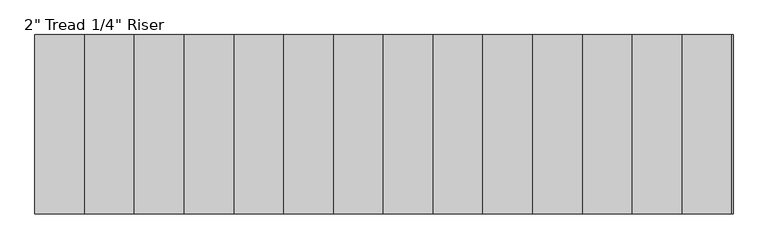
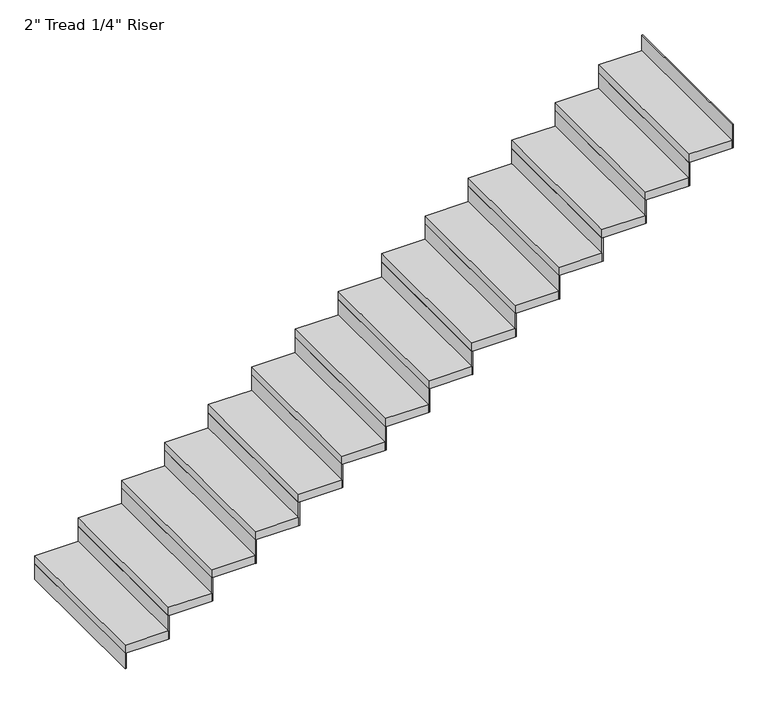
"""IFC4 building model written with IfcOpenShell, lengths in millimetres: stair flight geometry."""

from ifc_helpers import new_model, si_unit, frame, origin, origin_with_axes, place, context, project, spatial, polyline, outline, extrude, source, transform, mapped, element, save


def stair_flight_90295c1e(model_context):
    return source(origin(), model_context, "Body", "SweptSolid", [
        extrude(outline(polyline([(133406.5974271, -2391.9711813), (133400.2474271, -2391.9711813), (133400.2474271, -1477.5711813), (133406.5974271, -1477.5711813), (133406.5974271, -2391.9711813)])), origin_with_axes(), (0.0, 0.0, 1.0), 94.3428571),
        extrude(outline(polyline([(133654.2474271, -1477.5711813), (133654.2474271, -2391.9711813), (133400.2474271, -2391.9711813), (133400.2474271, -1477.5711813), (133654.2474271, -1477.5711813)])), frame((0.0, 0.0, 94.3428571), z_axis=(0.0, 0.0, 1.0), x_axis=(1.0, 0.0, 0.0)), (0.0, 0.0, 1.0), 50.8),
        extrude(outline(polyline([(133660.5974271, -2391.9711813), (133654.2474271, -2391.9711813), (133654.2474271, -1477.5711813), (133660.5974271, -1477.5711813), (133660.5974271, -2391.9711813)])), frame((0.0, 0.0, 94.3428571), z_axis=(0.0, 0.0, 1.0), x_axis=(1.0, 0.0, 0.0)), (0.0, 0.0, 1.0), 145.1428571),
        extrude(outline(polyline([(133908.2474271, -1477.5711813), (133908.2474271, -2391.9711813), (133654.2474271, -2391.9711813), (133654.2474271, -1477.5711813), (133908.2474271, -1477.5711813)])), frame((0.0, 0.0, 239.4857143), z_axis=(0.0, 0.0, 1.0), x_axis=(1.0, 0.0, 0.0)), (0.0, 0.0, 1.0), 50.8),
        extrude(outline(polyline([(133914.5974271, -2391.9711813), (133908.2474271, -2391.9711813), (133908.2474271, -1477.5711813), (133914.5974271, -1477.5711813), (133914.5974271, -2391.9711813)])), frame((0.0, 0.0, 239.4857143), z_axis=(0.0, 0.0, 1.0), x_axis=(1.0, 0.0, 0.0)), (0.0, 0.0, 1.0), 145.1428571),
        extrude(outline(polyline([(134162.2474271, -1477.5711813), (134162.2474271, -2391.9711813), (133908.2474271, -2391.9711813), (133908.2474271, -1477.5711813), (134162.2474271, -1477.5711813)])), frame((0.0, 0.0, 384.6285714), z_axis=(0.0, 0.0, 1.0), x_axis=(1.0, 0.0, 0.0)), (0.0, 0.0, 1.0), 50.8),
        extrude(outline(polyline([(134168.5974271, -2391.9711813), (134162.2474271, -2391.9711813), (134162.2474271, -1477.5711813), (134168.5974271, -1477.5711813), (134168.5974271, -2391.9711813)])), frame((0.0, 0.0, 384.6285714), z_axis=(0.0, 0.0, 1.0), x_axis=(1.0, 0.0, 0.0)), (0.0, 0.0, 1.0), 145.1428571),
        extrude(outline(polyline([(134416.2474271, -1477.5711813), (134416.2474271, -2391.9711813), (134162.2474271, -2391.9711813), (134162.2474271, -1477.5711813), (134416.2474271, -1477.5711813)])), frame((0.0, 0.0, 529.7714286), z_axis=(0.0, 0.0, 1.0), x_axis=(1.0, 0.0, 0.0)), (0.0, 0.0, 1.0), 50.8),
        extrude(outline(polyline([(134422.5974271, -2391.9711813), (134416.2474271, -2391.9711813), (134416.2474271, -1477.5711813), (134422.5974271, -1477.5711813), (134422.5974271, -2391.9711813)])), frame((0.0, 0.0, 529.7714286), z_axis=(0.0, 0.0, 1.0), x_axis=(1.0, 0.0, 0.0)), (0.0, 0.0, 1.0), 145.1428571),
        extrude(outline(polyline([(134670.2474271, -1477.5711813), (134670.2474271, -2391.9711813), (134416.2474271, -2391.9711813), (134416.2474271, -1477.5711813), (134670.2474271, -1477.5711813)])), frame((0.0, 0.0, 674.9142857), z_axis=(0.0, 0.0, 1.0), x_axis=(1.0, 0.0, 0.0)), (0.0, 0.0, 1.0), 50.8),
        extrude(outline(polyline([(134676.5974271, -2391.9711813), (134670.2474271, -2391.9711813), (134670.2474271, -1477.5711813), (134676.5974271, -1477.5711813), (134676.5974271, -2391.9711813)])), frame((0.0, 0.0, 674.9142857), z_axis=(0.0, 0.0, 1.0), x_axis=(1.0, 0.0, 0.0)), (0.0, 0.0, 1.0), 145.1428571),
        extrude(outline(polyline([(134924.2474271, -1477.5711813), (134924.2474271, -2391.9711813), (134670.2474271, -2391.9711813), (134670.2474271, -1477.5711813), (134924.2474271, -1477.5711813)])), frame((0.0, 0.0, 820.0571429), z_axis=(0.0, 0.0, 1.0), x_axis=(1.0, 0.0, 0.0)), (0.0, 0.0, 1.0), 50.8),
        extrude(outline(polyline([(134930.5974271, -2391.9711813), (134924.2474271, -2391.9711813), (134924.2474271, -1477.5711813), (134930.5974271, -1477.5711813), (134930.5974271, -2391.9711813)])), frame((0.0, 0.0, 820.0571429), z_axis=(0.0, 0.0, 1.0), x_axis=(1.0, 0.0, 0.0)), (0.0, 0.0, 1.0), 145.1428571),
        extrude(outline(polyline([(135178.2474271, -1477.5711813), (135178.2474271, -2391.9711813), (134924.2474271, -2391.9711813), (134924.2474271, -1477.5711813), (135178.2474271, -1477.5711813)])), frame((0.0, 0.0, 965.2), z_axis=(0.0, 0.0, 1.0), x_axis=(1.0, 0.0, 0.0)), (0.0, 0.0, 1.0), 50.8),
        extrude(outline(polyline([(135184.5974271, -2391.9711813), (135178.2474271, -2391.9711813), (135178.2474271, -1477.5711813), (135184.5974271, -1477.5711813), (135184.5974271, -2391.9711813)])), frame((0.0, 0.0, 965.2), z_axis=(0.0, 0.0, 1.0), x_axis=(1.0, 0.0, 0.0)), (0.0, 0.0, 1.0), 145.1428571),
        extrude(outline(polyline([(135432.2474271, -1477.5711813), (135432.2474271, -2391.9711813), (135178.2474271, -2391.9711813), (135178.2474271, -1477.5711813), (135432.2474271, -1477.5711813)])), frame((0.0, 0.0, 1110.3428571), z_axis=(0.0, 0.0, 1.0), x_axis=(1.0, 0.0, 0.0)), (0.0, 0.0, 1.0), 50.8),
        extrude(outline(polyline([(135438.5974271, -2391.9711813), (135432.2474271, -2391.9711813), (135432.2474271, -1477.5711813), (135438.5974271, -1477.5711813), (135438.5974271, -2391.9711813)])), frame((0.0, 0.0, 1110.3428571), z_axis=(0.0, 0.0, 1.0), x_axis=(1.0, 0.0, 0.0)), (0.0, 0.0, 1.0), 145.1428571),
        extrude(outline(polyline([(135686.2474271, -1477.5711813), (135686.2474271, -2391.9711813), (135432.2474271, -2391.9711813), (135432.2474271, -1477.5711813), (135686.2474271, -1477.5711813)])), frame((0.0, 0.0, 1255.4857143), z_axis=(0.0, 0.0, 1.0), x_axis=(1.0, 0.0, 0.0)), (0.0, 0.0, 1.0), 50.8),
        extrude(outline(polyline([(135692.5974271, -2391.9711813), (135686.2474271, -2391.9711813), (135686.2474271, -1477.5711813), (135692.5974271, -1477.5711813), (135692.5974271, -2391.9711813)])), frame((0.0, 0.0, 1255.4857143), z_axis=(0.0, 0.0, 1.0), x_axis=(1.0, 0.0, 0.0)), (0.0, 0.0, 1.0), 145.1428571),
        extrude(outline(polyline([(135940.2474271, -1477.5711813), (135940.2474271, -2391.9711813), (135686.2474271, -2391.9711813), (135686.2474271, -1477.5711813), (135940.2474271, -1477.5711813)])), frame((0.0, 0.0, 1400.6285714), z_axis=(0.0, 0.0, 1.0), x_axis=(1.0, 0.0, 0.0)), (0.0, 0.0, 1.0), 50.8),
        extrude(outline(polyline([(135946.5974271, -2391.9711813), (135940.2474271, -2391.9711813), (135940.2474271, -1477.5711813), (135946.5974271, -1477.5711813), (135946.5974271, -2391.9711813)])), frame((0.0, 0.0, 1400.6285714), z_axis=(0.0, 0.0, 1.0), x_axis=(1.0, 0.0, 0.0)), (0.0, 0.0, 1.0), 145.1428571),
        extrude(outline(polyline([(136194.2474271, -1477.5711813), (136194.2474271, -2391.9711813), (135940.2474271, -2391.9711813), (135940.2474271, -1477.5711813), (136194.2474271, -1477.5711813)])), frame((0.0, 0.0, 1545.7714286), z_axis=(0.0, 0.0, 1.0), x_axis=(1.0, 0.0, 0.0)), (0.0, 0.0, 1.0), 50.8),
        extrude(outline(polyline([(136200.5974271, -2391.9711813), (136194.2474271, -2391.9711813), (136194.2474271, -1477.5711813), (136200.5974271, -1477.5711813), (136200.5974271, -2391.9711813)])), frame((0.0, 0.0, 1545.7714286), z_axis=(0.0, 0.0, 1.0), x_axis=(1.0, 0.0, 0.0)), (0.0, 0.0, 1.0), 145.1428571),
        extrude(outline(polyline([(136448.2474271, -1477.5711813), (136448.2474271, -2391.9711813), (136194.2474271, -2391.9711813), (136194.2474271, -1477.5711813), (136448.2474271, -1477.5711813)])), frame((0.0, 0.0, 1690.9142857), z_axis=(0.0, 0.0, 1.0), x_axis=(1.0, 0.0, 0.0)), (0.0, 0.0, 1.0), 50.8),
        extrude(outline(polyline([(136454.5974271, -2391.9711813), (136448.2474271, -2391.9711813), (136448.2474271, -1477.5711813), (136454.5974271, -1477.5711813), (136454.5974271, -2391.9711813)])), frame((0.0, 0.0, 1690.9142857), z_axis=(0.0, 0.0, 1.0), x_axis=(1.0, 0.0, 0.0)), (0.0, 0.0, 1.0), 145.1428571),
        extrude(outline(polyline([(136702.2474271, -1477.5711813), (136702.2474271, -2391.9711813), (136448.2474271, -2391.9711813), (136448.2474271, -1477.5711813), (136702.2474271, -1477.5711813)])), frame((0.0, 0.0, 1836.0571429), z_axis=(0.0, 0.0, 1.0), x_axis=(1.0, 0.0, 0.0)), (0.0, 0.0, 1.0), 50.8),
        extrude(outline(polyline([(136708.5974271, -2391.9711813), (136702.2474271, -2391.9711813), (136702.2474271, -1477.5711813), (136708.5974271, -1477.5711813), (136708.5974271, -2391.9711813)])), frame((0.0, 0.0, 1836.0571429), z_axis=(0.0, 0.0, 1.0), x_axis=(1.0, 0.0, 0.0)), (0.0, 0.0, 1.0), 145.1428571),
        extrude(outline(polyline([(136962.5974271, -2391.9711813), (136956.2474271, -2391.9711813), (136956.2474271, -1477.5711813), (136962.5974271, -1477.5711813), (136962.5974271, -2391.9711813)])), frame((0.0, 0.0, 1981.2), z_axis=(0.0, 0.0, 1.0), x_axis=(1.0, 0.0, 0.0)), (0.0, 0.0, 1.0), 145.1428571),
        extrude(outline(polyline([(136956.2474271, -1477.5711813), (136956.2474271, -2391.9711813), (136702.2474271, -2391.9711813), (136702.2474271, -1477.5711813), (136956.2474271, -1477.5711813)])), frame((0.0, 0.0, 1981.2), z_axis=(0.0, 0.0, 1.0), x_axis=(1.0, 0.0, 0.0)), (0.0, 0.0, 1.0), 50.8),
    ])


if __name__ == "__main__":
    model = new_model("IFC4")
    model_context = context("Model", 3, world=origin())
    ifc_project = project(units=[si_unit("LENGTHUNIT", "METRE", prefix="MILLI")], contexts=[model_context])
    site = spatial("IfcSite", under=ifc_project)
    building = spatial("IfcBuilding", under=site)
    placement = place(None, origin())
    stair_flight_shape = stair_flight_90295c1e(model_context)
    element("IfcStairFlight", 1, ObjectType="2\" Tread 1/4\" Riser", at=placement, inside=building, context=model_context, shape_type="MappedRepresentation", body=[
        mapped(stair_flight_shape, transform((0.0, 0.0, 0.0), x_axis=(1.0, 0.0, 0.0), y_axis=(0.0, 1.0, 0.0), z_axis=(0.0, 0.0, 1.0))),
    ])
    save(model, "model.ifc")
